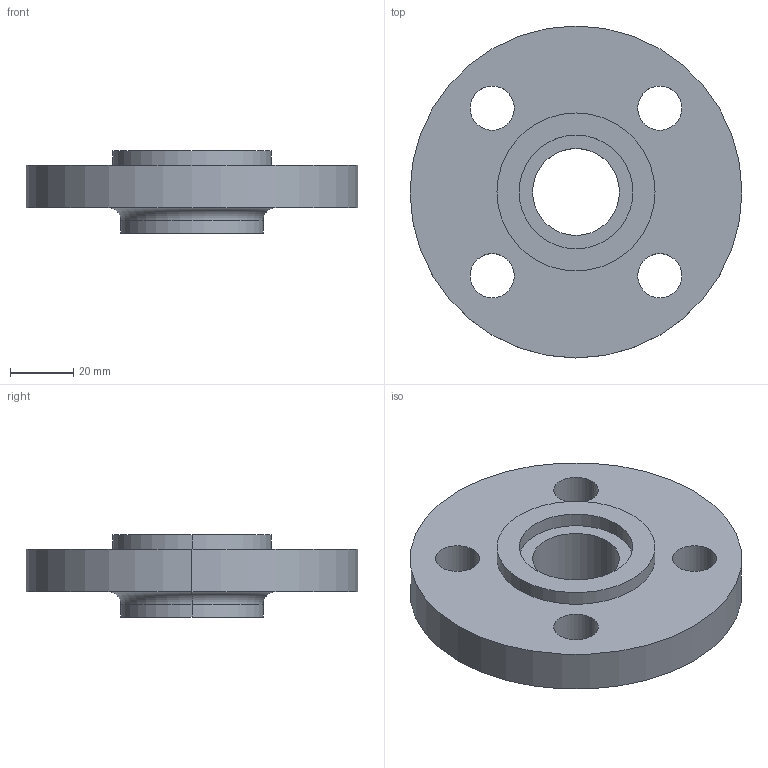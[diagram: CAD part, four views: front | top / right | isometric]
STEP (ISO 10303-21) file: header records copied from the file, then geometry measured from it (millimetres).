
FILE_DESCRIPTION (( 'STEP AP214' ), '1' );
FILE_NAME ('PN40 DN20 Type 12 - Type C Face.STEP', '2018-12-29T18:17:12', ( '' ), ( '' ), 'SwSTEP 2.0', 'SolidWorks 2019', '' );
FILE_SCHEMA (( 'AUTOMOTIVE_DESIGN' ));
Length unit declared in the file: millimetre
Products named in the file (1): PN40 DN20 Type 12 - Type C Face
Bounding box: 105 x 105 x 26 mm (x, y, z)
Volume: 113297.4 mm3; surface area: 25695.5 mm2
Topology: 1 solids, 1 shells, 25 faces, 58 edges, 38 vertices
Faces by surface type: cylinder 18, plane 5, torus 2
Entity records: 790 total; most frequent: DIRECTION 150, CARTESIAN_POINT 122, ORIENTED_EDGE 116, AXIS2_PLACEMENT_3D 66, EDGE_CURVE 58, CIRCLE 40, VERTEX_POINT 38, EDGE_LOOP 38
